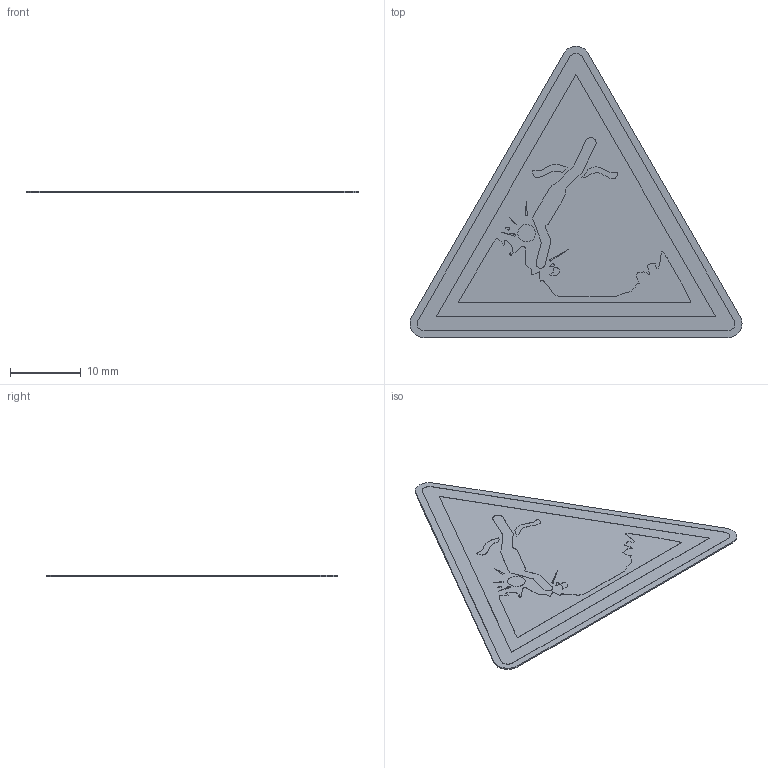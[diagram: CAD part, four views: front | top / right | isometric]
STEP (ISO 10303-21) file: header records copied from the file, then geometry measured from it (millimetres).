
FILE_DESCRIPTION (( 'STEP AP214' ), '1' );
FILE_NAME ('W049_Warnung vor Objekten unter der Wasseroberfläche.STEP', '2022-03-03T14:26:55', ( '' ), ( '' ), 'SwSTEP 2.0', 'SolidWorks 2021', '' );
FILE_SCHEMA (( 'AUTOMOTIVE_DESIGN' ));
Length unit declared in the file: millimetre
Products named in the file (1): W049_Warnung vor Objekten unter der Wasseroberfläche
Bounding box: 47.07 x 41.3 x 0.22 mm (x, y, z)
Volume: 223.4 mm3; surface area: 2185.9 mm2
Topology: 1 solids, 1 shells, 232 faces, 648 edges, 432 vertices
Faces by surface type: plane 205, cylinder 27
Entity records: 9833 total; most frequent: CARTESIAN_POINT 1313, ORIENTED_EDGE 1296, DIRECTION 1168, EDGE_CURVE 648, VECTOR 594, LINE 594, VERTEX_POINT 432, AXIS2_PLACEMENT_3D 287
